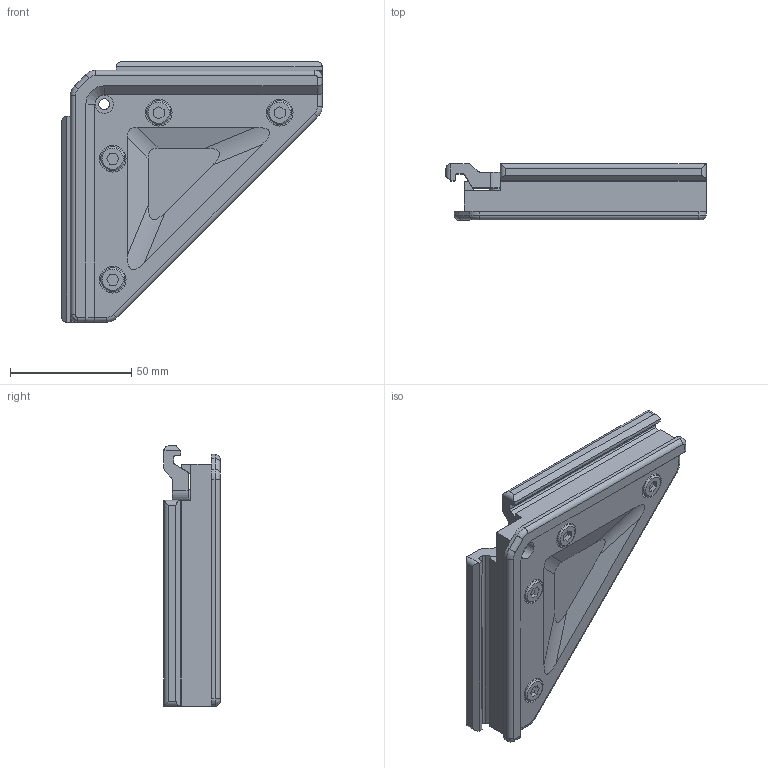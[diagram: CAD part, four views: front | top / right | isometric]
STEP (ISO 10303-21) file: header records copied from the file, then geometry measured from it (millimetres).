
FILE_DESCRIPTION(('STEP AP214'),'1');
FILE_NAME('SA40.stp','2017-07-26T07:19:42',(' '),(' '),'Spatial InterOp 3D',' ',' ');
FILE_SCHEMA(('automotive_design'));
Length unit declared in the file: millimetre
Products named in the file (8): SA40; SA40A; パーツ6; ねじ : 穴付き - M6.0 x 10.0
Assembly tree (7 placements, depth 2):
  SA40
    SA40A
    パーツ6
    パーツ6
    ねじ : 穴付き - M6.0 x 10.0
    ねじ : 穴付き - M6.0 x 10.0
    ねじ : 穴付き - M6.0 x 10.0
    ねじ : 穴付き - M6.0 x 10.0
Bounding box: 107.5 x 23.23 x 107.5 mm (x, y, z)
Volume: 88545.8 mm3; surface area: 37596.9 mm2
Topology: 7 solids, 7 shells, 198 faces, 479 edges, 311 vertices
Faces by surface type: plane 113, cylinder 70, cone 9, torus 4, bspline 2
Full cylindrical faces by diameter (mm): 4.5 x1, 6 x4, 6.8 x4, 7.5 x1, 9.87 x4, 11 x4
Entity records: 7443 total; most frequent: CARTESIAN_POINT 1034, DIRECTION 1000, ORIENTED_EDGE 896, EDGE_CURVE 448, AXIS2_PLACEMENT_3D 352, VERTEX_POINT 306, LINE 296, VECTOR 296
